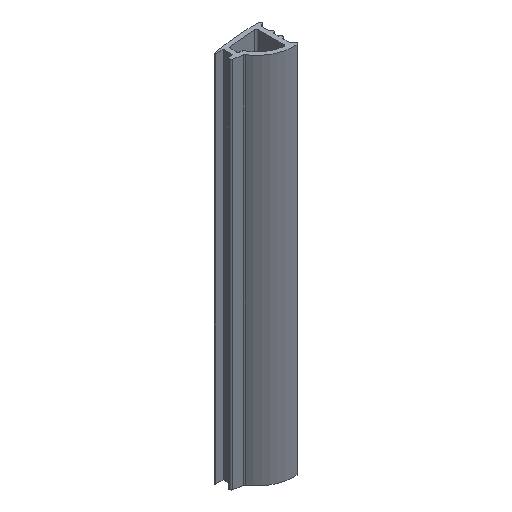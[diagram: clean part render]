
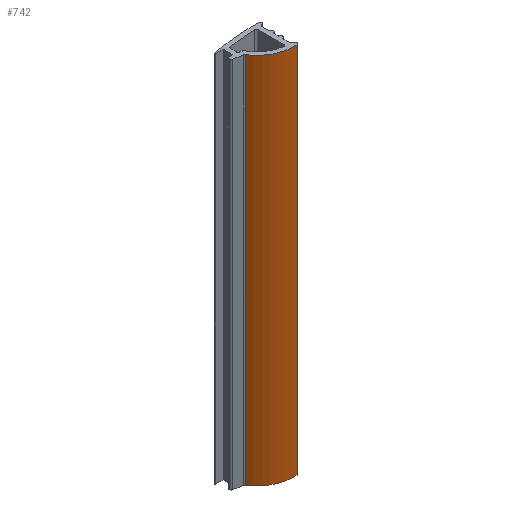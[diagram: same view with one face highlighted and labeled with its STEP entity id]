
A CAD part, isometric view. The second image highlights one B-rep face of the part: STEP entity #742.
In plain terms, the highlighted cylindrical face has radius 10 mm (diameter 20 mm), a partial arc.
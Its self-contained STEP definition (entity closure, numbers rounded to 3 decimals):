
#36 = CARTESIAN_POINT ( 'NONE',  ( -0.456, -6.28, 100. ) ) ;
#55 = DIRECTION ( 'NONE',  ( -1., 0., 0. ) ) ;
#99 = CARTESIAN_POINT ( 'NONE',  ( -0.456, -6.28, 0. ) ) ;
#101 = EDGE_CURVE ( 'NONE', #524, #359, #719, .T. ) ;
#119 = EDGE_CURVE ( 'NONE', #359, #390, #665, .T. ) ;
#138 = CYLINDRICAL_SURFACE ( 'NONE', #408, 10. ) ;
#146 = DIRECTION ( 'NONE',  ( 0., 0., 1. ) ) ;
#177 = CARTESIAN_POINT ( 'NONE',  ( -9.747, -1.719, 100. ) ) ;
#201 = DIRECTION ( 'NONE',  ( 0., 0., -1. ) ) ;
#224 = CARTESIAN_POINT ( 'NONE',  ( -1.331, 3.682, 0. ) ) ;
#225 = VERTEX_POINT ( 'NONE', #279 ) ;
#270 = ORIENTED_EDGE ( 'NONE', *, *, #101, .T. ) ;
#279 = CARTESIAN_POINT ( 'NONE',  ( -0.456, -6.28, 100. ) ) ;
#331 = AXIS2_PLACEMENT_3D ( 'NONE', #224, #853, #667 ) ;
#340 = ORIENTED_EDGE ( 'NONE', *, *, #119, .T. ) ;
#359 = VERTEX_POINT ( 'NONE', #798 ) ;
#378 = FACE_OUTER_BOUND ( 'NONE', #967, .T. ) ;
#390 = VERTEX_POINT ( 'NONE', #99 ) ;
#408 = AXIS2_PLACEMENT_3D ( 'NONE', #828, #201, #732 ) ;
#434 = DIRECTION ( 'NONE',  ( 0., 0., -1. ) ) ;
#478 = VECTOR ( 'NONE', #434, 1000. ) ;
#503 = CARTESIAN_POINT ( 'NONE',  ( -1.331, 3.682, 100. ) ) ;
#524 = VERTEX_POINT ( 'NONE', #1162 ) ;
#562 = ORIENTED_EDGE ( 'NONE', *, *, #965, .F. ) ;
#663 = DIRECTION ( 'NONE',  ( 0., 0., -1. ) ) ;
#665 = CIRCLE ( 'NONE', #331, 10. ) ;
#667 = DIRECTION ( 'NONE',  ( -1., 0., 0. ) ) ;
#718 = VECTOR ( 'NONE', #663, 1000. ) ;
#719 = LINE ( 'NONE', #177, #478 ) ;
#732 = DIRECTION ( 'NONE',  ( -1., 0., 0. ) ) ;
#742 = ADVANCED_FACE ( 'NONE', ( #378 ), #138, .T. ) ;
#798 = CARTESIAN_POINT ( 'NONE',  ( -9.747, -1.719, 0. ) ) ;
#828 = CARTESIAN_POINT ( 'NONE',  ( -1.331, 3.682, 100. ) ) ;
#853 = DIRECTION ( 'NONE',  ( 0., 0., 1. ) ) ;
#873 = CIRCLE ( 'NONE', #1074, 10. ) ;
#932 = LINE ( 'NONE', #36, #718 ) ;
#965 = EDGE_CURVE ( 'NONE', #225, #390, #932, .T. ) ;
#967 = EDGE_LOOP ( 'NONE', ( #340, #562, #1032, #270 ) ) ;
#1032 = ORIENTED_EDGE ( 'NONE', *, *, #1066, .F. ) ;
#1066 = EDGE_CURVE ( 'NONE', #524, #225, #873, .T. ) ;
#1074 = AXIS2_PLACEMENT_3D ( 'NONE', #503, #146, #55 ) ;
#1162 = CARTESIAN_POINT ( 'NONE',  ( -9.747, -1.719, 100. ) ) ;
